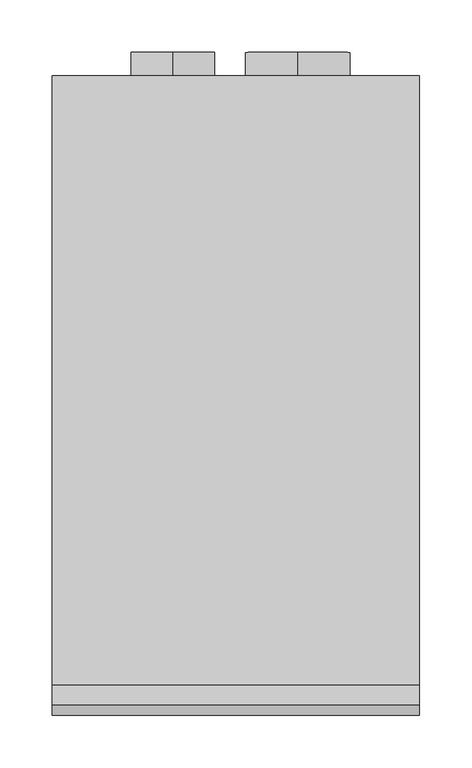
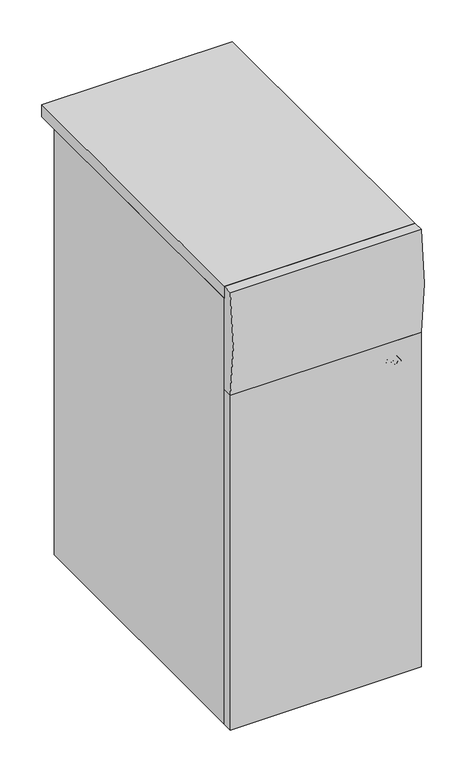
"""IFC4 building model written with IfcOpenShell, lengths in millimetres: proxy geometry, BAXI_ГазовыйКотел_slim-FiN : BAXI_Газовый котел_Slim_1.300_FiN."""

from ifc_helpers import new_model, si_unit, point, frame, frame_2d, origin, origin_with_axes, place, context, project, spatial, polyline, circle_curve, trimmed, segment, composite_curve, outline, extrude, source, transform, mapped, element, save


def mechanical_equipment_119eb01d(model_context):
    return source(origin(), model_context, "Body", "SweptSolid", [
        extrude(outline(polyline([(175.0, -22.0), (175.0, -602.5), (-175.0, -602.5), (-175.0, -22.0), (175.0, -22.0)])), frame((0.0, 0.0, 827.0), z_axis=(0.0, 0.0, 1.0), x_axis=(1.0, 0.0, 0.0)), (0.0, 0.0, 1.0), 23.0),
        extrude(outline(composite_curve([segment(trimmed(circle_curve(frame_2d((731.0, 59.0)), 50.0), [point((681.0, 59.0))], [point((781.0, 59.0))], False, "CARTESIAN"), True, "CONTINUOUS"), segment(trimmed(circle_curve(frame_2d((731.0, 59.0)), 50.0), [point((781.0, 59.0))], [point((681.0, 59.0))], False, "CARTESIAN"), True, "CONTINUOUS")], self_intersect=False)), frame((0.0, -61.0, 0.0), z_axis=(0.0, 1.0, 0.0), x_axis=(0.0, 0.0, 1.0)), (0.0, 0.0, 1.0), 61.0),
        extrude(outline(composite_curve([segment(trimmed(circle_curve(frame_2d((749.0, -60.0)), 40.0), [point((709.0, -60.0))], [point((789.0, -60.0))], False, "CARTESIAN"), True, "CONTINUOUS"), segment(trimmed(circle_curve(frame_2d((749.0, -60.0)), 40.0), [point((789.0, -60.0))], [point((709.0, -60.0))], False, "CARTESIAN"), True, "CONTINUOUS")], self_intersect=False)), frame((0.0, -61.0, 0.0), z_axis=(0.0, 1.0, 0.0), x_axis=(0.0, 0.0, 1.0)), (0.0, 0.0, 1.0), 61.0),
        extrude(outline(composite_curve([segment(polyline([(-602.5, 849.5501658), (-602.5, 650.0), (-622.0, 650.0)]), True, "CONTINUOUS"), segment(trimmed(circle_curve(frame_2d((-105.8120833, 749.7750829)), 525.7423633), [point((-622.0, 650.0))], [point((-622.0, 849.5501658))], False, "CARTESIAN"), True, "CONTINUOUS"), segment(polyline([(-622.0, 849.5501658), (-602.5, 849.5501658)]), True, "CONTINUOUS")], self_intersect=False)), frame((-175.0, 0.0, 0.0), z_axis=(1.0, 0.0, 0.0), x_axis=(0.0, 1.0, 0.0)), (0.0, 0.0, 1.0), 350.0),
        extrude(outline(polyline([(175.0, -602.5), (175.0, -622.0), (-175.0, -622.0), (-175.0, -602.5), (175.0, -602.5)])), origin_with_axes(), (0.0, 0.0, 1.0), 650.0),
        extrude(outline(composite_curve([segment(trimmed(circle_curve(frame_2d((453.0, 157.0)), 7.5), [point((445.5, 157.0))], [point((460.5, 157.0))], False, "CARTESIAN"), True, "CONTINUOUS"), segment(trimmed(circle_curve(frame_2d((453.0, 157.0)), 7.5), [point((460.5, 157.0))], [point((445.5, 157.0))], False, "CARTESIAN"), True, "CONTINUOUS")], self_intersect=False)), frame((0.0, -141.0, 0.0), z_axis=(0.0, 1.0, 0.0), x_axis=(0.0, 0.0, 1.0)), (0.0, 0.0, 1.0), 119.0),
        extrude(outline(composite_curve([segment(trimmed(circle_curve(frame_2d((522.0, -93.0)), 10.0), [point((512.0, -93.0))], [point((532.0, -93.0))], False, "CARTESIAN"), True, "CONTINUOUS"), segment(trimmed(circle_curve(frame_2d((522.0, -93.0)), 10.0), [point((532.0, -93.0))], [point((512.0, -93.0))], False, "CARTESIAN"), True, "CONTINUOUS")], self_intersect=False)), frame((0.0, -141.0, 0.0), z_axis=(0.0, 1.0, 0.0), x_axis=(0.0, 0.0, 1.0)), (0.0, 0.0, 1.0), 119.0),
        extrude(outline(composite_curve([segment(trimmed(circle_curve(frame_2d((72.0, 97.0)), 10.0), [point((62.0, 97.0))], [point((82.0, 97.0))], False, "CARTESIAN"), True, "CONTINUOUS"), segment(trimmed(circle_curve(frame_2d((72.0, 97.0)), 10.0), [point((82.0, 97.0))], [point((62.0, 97.0))], False, "CARTESIAN"), True, "CONTINUOUS")], self_intersect=False)), frame((0.0, -102.0, 0.0), z_axis=(0.0, 1.0, 0.0), x_axis=(0.0, 0.0, 1.0)), (0.0, 0.0, 1.0), 41.0),
        extrude(outline(polyline([(175.0, -61.0), (175.0, -602.5), (-175.0, -602.5), (-175.0, -61.0), (175.0, -61.0)])), origin_with_axes(), (0.0, 0.0, 1.0), 827.0),
        extrude(outline(polyline([(620.4221594, 101.2498993), (605.1182684, 101.2498993), (605.1182684, 106.480247), (605.2207498, 110.2227163), (605.9438131, 112.3046073), (607.5113991, 113.6368656), (609.5325603, 114.1246012), (611.8289031, 113.4451874), (613.2105044, 111.5018362), (614.5655364, 113.0637288), (616.5468437, 113.6387634), (618.3478596, 113.1567212), (619.6345707, 111.9516157), (620.270335, 110.3119131), (620.4221594, 107.5316303), (620.4221594, 101.2498993)]), holes=[polyline([(617.7500514, 104.1649262), (617.7500514, 106.1158686), (614.3985296, 108.8562975), (614.3491867, 106.3891524), (614.3491867, 104.1649262), (617.7500514, 104.1649262)]), polyline([(611.6770788, 104.1649262), (611.6770788, 106.8560121), (607.8814709, 109.5319157), (607.7903763, 107.2469598), (607.7903763, 104.1649262), (611.6770788, 104.1649262)])]), frame((0.0, -622.0, 0.0), z_axis=(0.0, 1.0, 0.0), x_axis=(0.0, 0.0, 1.0)), (0.0, 0.0, 1.0), 5.0),
        extrude(outline(polyline([(605.1182684, 129.4284922), (620.4221594, 123.7882189), (620.4221594, 120.6834117), (605.1182684, 115.0962769), (605.1182684, 118.2010841), (608.519133, 119.3853138), (608.519133, 125.1660246), (605.1182684, 126.3654367), (605.1182684, 129.4284922)]), holes=[polyline([(611.191241, 124.2323051), (611.191241, 120.3190333), (616.7783758, 122.2623846), (611.191241, 124.2323051)])]), frame((0.0, -622.0, 0.0), z_axis=(0.0, 1.0, 0.0), x_axis=(0.0, 0.0, 1.0)), (0.0, 0.0, 1.0), 5.0),
        extrude(outline(polyline([(605.1182684, 129.5499517), (605.1182684, 132.9584076), (610.523214, 136.4731405), (605.1182684, 139.9878734), (605.1182684, 143.3963293), (613.1421834, 138.1773684), (620.4221594, 142.9104915), (620.4221594, 139.5020356), (615.7649485, 136.4731405), (620.4221594, 133.4442454), (620.4221594, 130.0357895), (613.1421834, 134.7689125), (605.1182684, 129.5499517)])), frame((0.0, -622.0, 0.0), z_axis=(0.0, 1.0, 0.0), x_axis=(0.0, 0.0, 1.0)), (0.0, 0.0, 1.0), 5.0),
        extrude(outline(polyline([(144.9753022, -617.0), (147.890329, -617.0), (147.890329, -622.0), (144.9753022, -622.0), (144.9753022, -617.0)])), frame((0.0, 0.0, 605.1182684), z_axis=(0.0, 0.0, 1.0), x_axis=(1.0, 0.0, 0.0)), (0.0, 0.0, 1.0), 15.303891),
    ])


if __name__ == "__main__":
    model = new_model("IFC4")
    model_context = context("Model", 3, world=origin())
    ifc_project = project(units=[si_unit("LENGTHUNIT", "METRE", prefix="MILLI")], contexts=[model_context])
    site = spatial("IfcSite", under=ifc_project)
    building = spatial("IfcBuilding", under=site)
    placement = place(None, origin())
    mechanical_equipment_shape = mechanical_equipment_119eb01d(model_context)
    element("IfcBuildingElementProxy", 1, Name="BAXI_ГазовыйКотел_slim-FiN : BAXI_Газовый котел_Slim_1.300_FiN", ObjectType="BAXI_ГазовыйКотел_slim-FiN : BAXI_Газовый котел_Slim_1.300_FiN", at=placement, inside=building, context=model_context, shape_type="MappedRepresentation", body=[
        mapped(mechanical_equipment_shape, transform((0.0, 0.0, 0.0), x_axis=(1.0, 0.0, 0.0), y_axis=(0.0, 1.0, 0.0), z_axis=(0.0, 0.0, 1.0))),
    ])
    save(model, "model.ifc")
